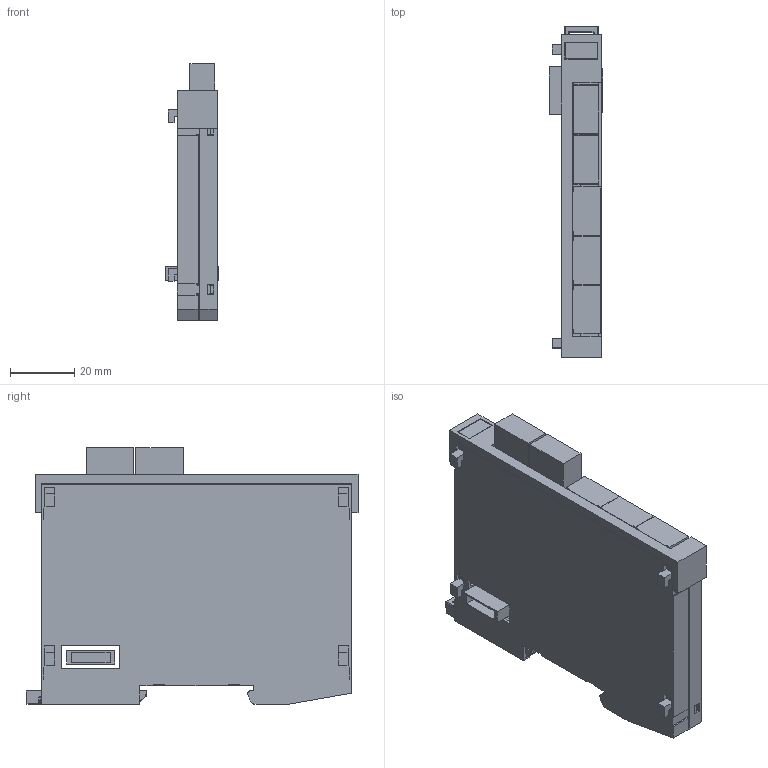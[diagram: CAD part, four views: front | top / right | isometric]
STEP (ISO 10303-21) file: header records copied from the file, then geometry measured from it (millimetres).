
FILE_DESCRIPTION (( 'STEP AP214' ), '1' );
FILE_NAME ('SI021.STEP', '2016-01-21T09:27:37', ( 'SIGMATEK GmbH & Co KG' ), ( 'SIGMATEK GmbH & Co KG' ), 'SwSTEP 2.0', 'SolidWorks 2015', '' );
FILE_SCHEMA (( 'AUTOMOTIVE_DESIGN' ));
Length unit declared in the file: millimetre
Products named in the file (12): Steckerabdeckung_Var 9; LP_SI021; Dummy_4110262104 4pol.Federkraftstecker f.2reih 1952283; Dummy_4110251205 4pol.Minicombicon-Grundgehäuse RM3,5 1937512; Dummy_4080225346 Erni Stift; Dummy_4080225345 Erni Buchse; S-Dias Rasthaken 20130313; Schieber_f Suport; S-Dias Schale rechts_f Suport; S-Dias Schale links_f Suport; 4110251342_MF 10-5 MC CABUR_1854510000; SI021
Assembly tree (15 placements, depth 3):
  SI021
    4110251342_MF 10-5 MC CABUR_1854510000
    S-Dias Schale links_f Suport
    S-Dias Schale rechts_f Suport
    Schieber_f Suport
    S-Dias Rasthaken 20130313
    LP_SI021
      Dummy_4080225345 Erni Buchse
      Dummy_4080225346 Erni Stift
      Dummy_4110251205 4pol.Minicombicon-Grundgehäuse RM3,5 1937512  x2
      Dummy_4110262104 4pol.Federkraftstecker f.2reih 1952283  x2
    Steckerabdeckung_Var 9  x3
Bounding box: 16.8 x 103.61 x 80.15 mm (x, y, z)
Volume: 27279.9 mm3; surface area: 44260.3 mm2
Topology: 14 solids, 14 shells, 961 faces, 2779 edges, 1840 vertices
Faces by surface type: plane 701, cylinder 149, bspline 55, cone 28, torus 15, sphere 13
Entity records: 32035 total; most frequent: CARTESIAN_POINT 7542, ORIENTED_EDGE 4768, DIRECTION 3745, EDGE_CURVE 2384, VECTOR 1717, LINE 1717, VERTEX_POINT 1584, AXIS2_PLACEMENT_3D 1014
